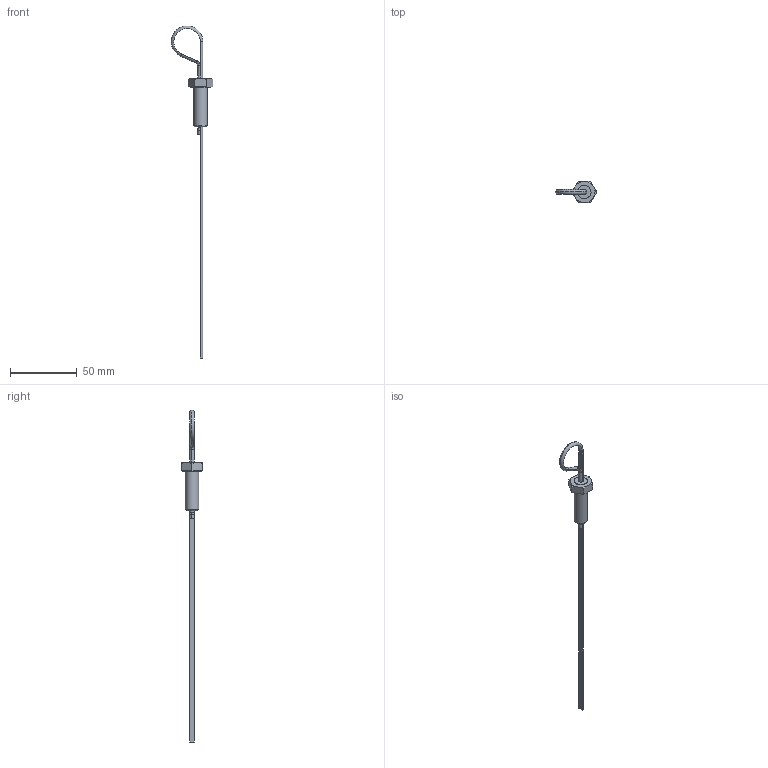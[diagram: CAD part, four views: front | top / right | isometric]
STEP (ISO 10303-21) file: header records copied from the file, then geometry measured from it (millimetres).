
FILE_DESCRIPTION((''),'2;1');
FILE_NAME('U:\Users\a.heinl\12168300.stp','2013-05-22T14:59:32',( 'User'),('SDRC'),'I-DEAS Master Series 9','UNIX','Yes');
FILE_SCHEMA(('AUTOMOTIVE_DESIGN { 1 0 10303 214 1 1 1 1 }'));
Length unit declared in the file: millimetre
Products named in the file (1): 12168300(234060)
Bounding box: 31.09 x 16.02 x 249.48 mm (x, y, z)
Volume: 5290.7 mm3; surface area: 4365.1 mm2
Topology: 1 solids, 1 shells, 47 faces, 113 edges, 79 vertices
Faces by surface type: bspline 47
Entity records: 1557 total; most frequent: CARTESIAN_POINT 873, ORIENTED_EDGE 208, EDGE_CURVE 104, VERTEX_POINT 64, EDGE_LOOP 54, FACE_OUTER_BOUND 47, ADVANCED_FACE 47, QUASI_UNIFORM_CURVE 29
